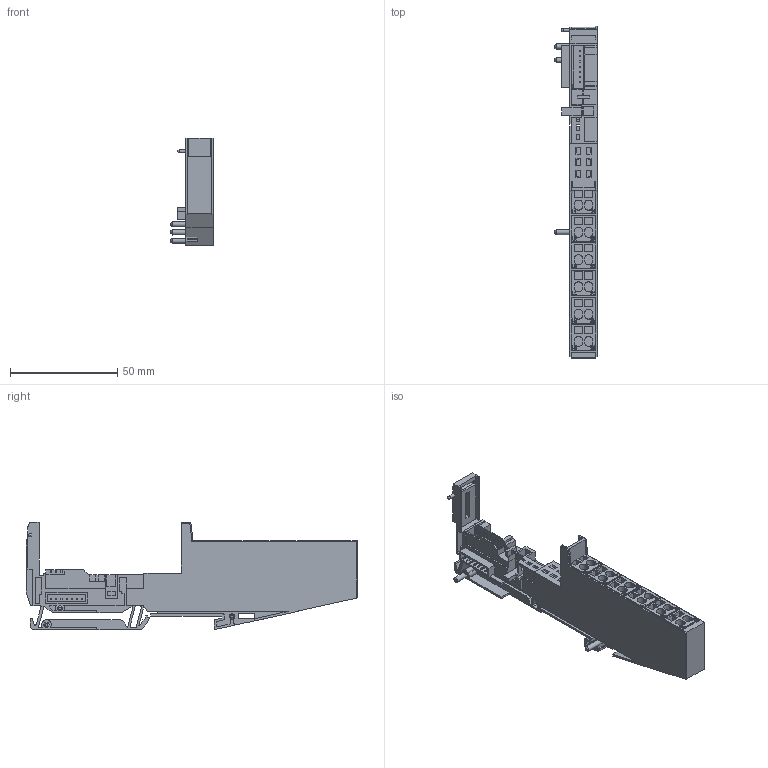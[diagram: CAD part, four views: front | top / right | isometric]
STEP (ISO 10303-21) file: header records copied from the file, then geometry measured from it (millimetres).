
FILE_DESCRIPTION((''),'2;1');
FILE_NAME('C:\TurckZip\BL20-Base-Large.stp','2011-01-13T11:18:16',('IKOROL'),(''),'Autodesk Inventor 2010','Autodesk Inventor 2010','');
FILE_SCHEMA(('CONFIG_CONTROL_DESIGN'));
Length unit declared in the file: millimetre
Products named in the file (1): Part6
Bounding box: 19.6 x 154.5 x 49.9 mm (x, y, z)
Volume: 42738.5 mm3; surface area: 26862.4 mm2
Topology: 1 solids, 1 shells, 998 faces, 2661 edges, 1766 vertices
Faces by surface type: plane 770, bspline 153, cylinder 68, cone 6, sphere 1
Full cylindrical faces by diameter (mm): 1.5 x1, 2.211 x2, 2.4 x2, 2.6 x2
Entity records: 32374 total; most frequent: CARTESIAN_POINT 7325, ORIENTED_EDGE 5288, DIRECTION 4193, EDGE_CURVE 2644, VECTOR 2187, LINE 2187, VERTEX_POINT 1763, EDGE_LOOP 1127
